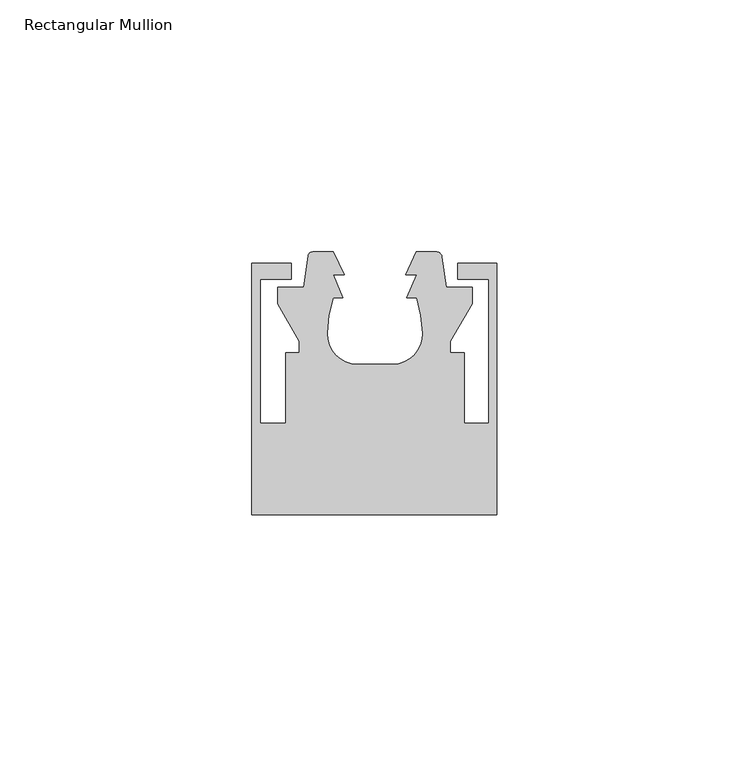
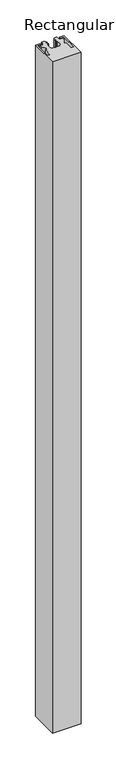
"""IFC4 building model written with IfcOpenShell, lengths in millimetres: member geometry, Rectangular Mullion : Danpal_Airpt."""

from ifc_helpers import new_model, si_unit, point, frame, frame_2d, origin, place, context, project, spatial, polyline, circle_curve, trimmed, segment, composite_curve, outline, extrude, source, transform, mapped, element, save


def rectangular_mullion_ad8a2e70(model_context):
    return source(origin(), model_context, "Body", "SweptSolid", [
        extrude(outline(composite_curve([segment(polyline([(-16.6, -16.4), (-16.6, -19.6), (-22.8, -19.6), (-22.8, -48.2), (-17.7185077, -48.2), (-17.7185077, -34.2), (-14.9766663, -34.2), (-14.9766663, -31.9202845), (-19.2732051, -24.478461), (-19.3, -21.2), (-14.115585, -21.2)]), True, "CONTINUOUS"), segment(trimmed(circle_curve(frame_2d((137.1078499, -38.5534788)), 152.215868), [point((-14.115585, -21.2))], [point((-13.2693482, -14.9660083))], False, "CARTESIAN"), True, "CONTINUOUS"), segment(trimmed(circle_curve(frame_2d((-12.3738214, -15.1064765)), 0.9064765), [point((-13.2693482, -14.9660083))], [point((-12.3738214, -14.2))], False, "CARTESIAN"), True, "CONTINUOUS"), segment(polyline([(-12.3738214, -14.2), (-8.2308667, -14.2), (-6.0782659, -18.7006239), (-8.2858815, -18.7006239), (-6.3614697, -23.2699289), (-8.2778534, -23.2699289)]), True, "CONTINUOUS"), segment(trimmed(circle_curve(frame_2d((16.4332098, -31.142799)), 25.9348941), [point((-8.2778534, -23.2699289))], [point((-9.488241, -30.3078647))], True, "CARTESIAN"), True, "CONTINUOUS"), segment(trimmed(circle_curve(frame_2d((-3.5093751, -30.500445)), 5.9819667), [point((-9.488241, -30.3078647))], [point((-3.5093751, -36.4824117))], True, "CARTESIAN"), True, "CONTINUOUS"), segment(polyline([(-3.5093751, -36.4824117), (3.5093751, -36.4824117)]), True, "CONTINUOUS"), segment(trimmed(circle_curve(frame_2d((3.5093751, -30.500445)), 5.9819667), [point((3.5093751, -36.4824117))], [point((9.488241, -30.3078647))], True, "CARTESIAN"), True, "CONTINUOUS"), segment(trimmed(circle_curve(frame_2d((-16.4332098, -31.142799)), 25.9348941), [point((9.488241, -30.3078647))], [point((8.2778534, -23.2699289))], True, "CARTESIAN"), True, "CONTINUOUS"), segment(polyline([(8.2778534, -23.2699289), (6.3614697, -23.2699289), (8.2858815, -18.7006239), (6.0782659, -18.7006239), (8.2308667, -14.2), (12.2262756, -14.2)]), True, "CONTINUOUS"), segment(trimmed(circle_curve(frame_2d((12.2262756, -15.2788845)), 1.0788845), [point((12.2262756, -14.2))], [point((13.2922905, -15.1127399))], False, "CARTESIAN"), True, "CONTINUOUS"), segment(trimmed(circle_curve(frame_2d((-137.1078499, -38.5534788)), 152.215868), [point((13.2922905, -15.1127399))], [point((14.115585, -21.2))], False, "CARTESIAN"), True, "CONTINUOUS"), segment(polyline([(14.115585, -21.2), (19.3, -21.2), (19.2732051, -24.478461), (14.9766663, -31.9202845), (14.9766663, -34.2), (17.7185077, -34.2), (17.7185077, -48.2), (22.6, -48.2), (22.6, -19.6), (16.4, -19.6), (16.4, -16.4), (24.2, -16.4), (24.2, -66.4), (-24.4, -66.4), (-24.4, -16.4), (-16.6, -16.4)]), True, "CONTINUOUS")], self_intersect=False)), frame((0.0, 0.0, -1208.6804098), z_axis=(0.0, 0.0, 1.0), x_axis=(1.0, 0.0, 0.0)), (0.0, 0.0, 1.0), 1208.6804098),
    ])


if __name__ == "__main__":
    model = new_model("IFC4")
    model_context = context("Model", 3, world=origin())
    ifc_project = project(units=[si_unit("LENGTHUNIT", "METRE", prefix="MILLI")], contexts=[model_context])
    site = spatial("IfcSite", under=ifc_project)
    building = spatial("IfcBuilding", under=site)
    placement = place(None, origin())
    rectangular_mullion_shape = rectangular_mullion_ad8a2e70(model_context)
    element("IfcMember", 1, ObjectType="Rectangular Mullion : Danpal_Airpt", at=placement, inside=building, context=model_context, shape_type="MappedRepresentation", body=[
        mapped(rectangular_mullion_shape, transform((0.0, 0.0, 0.0), x_axis=(1.0, 0.0, 0.0), y_axis=(0.0, 1.0, 0.0), z_axis=(0.0, 0.0, 1.0))),
    ])
    save(model, "model.ifc")
